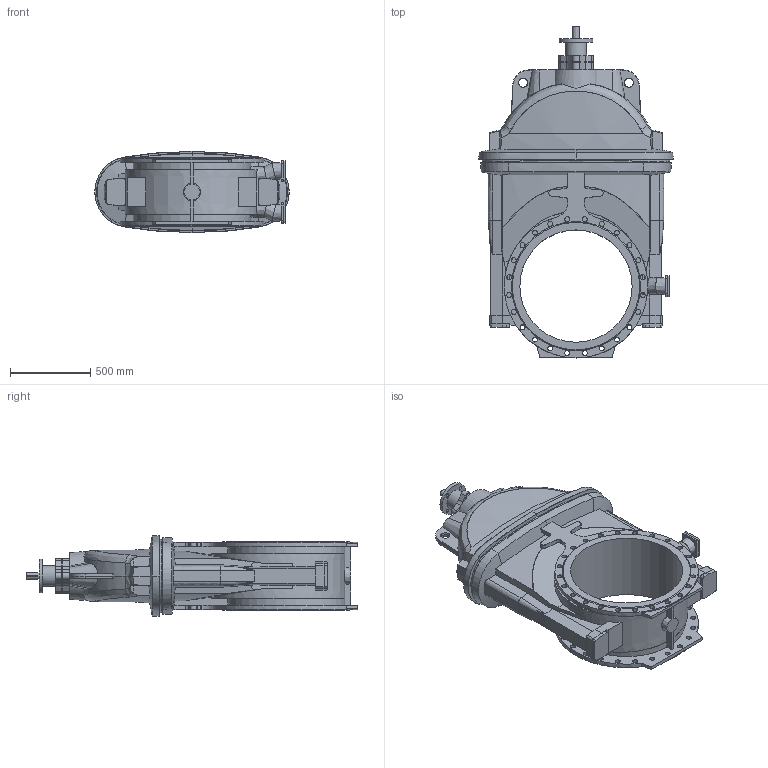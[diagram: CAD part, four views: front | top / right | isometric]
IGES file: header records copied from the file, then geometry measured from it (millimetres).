
Start section: SolidWorks IGES file using analytic representation for surfaces
Global section: file name: \\avksan2\techshare\PBM outline export from Enovia\O_06_30_DN700_X0XXX_AA0.igs; native system: SolidWorks 2012; preprocessor: SolidWorks 2012; author: pbm; date: 181121.082024; units: inch
Bounding box: 1212 x 2069.5 x 506 mm (x, y, z)
Surface area: 7013812.8 mm2 (no closed solid volume)
Topology: 0 solids, 0 shells, 551 faces, 3098 edges, 2966 vertices
Faces by surface type: bspline 277, revolution 274
